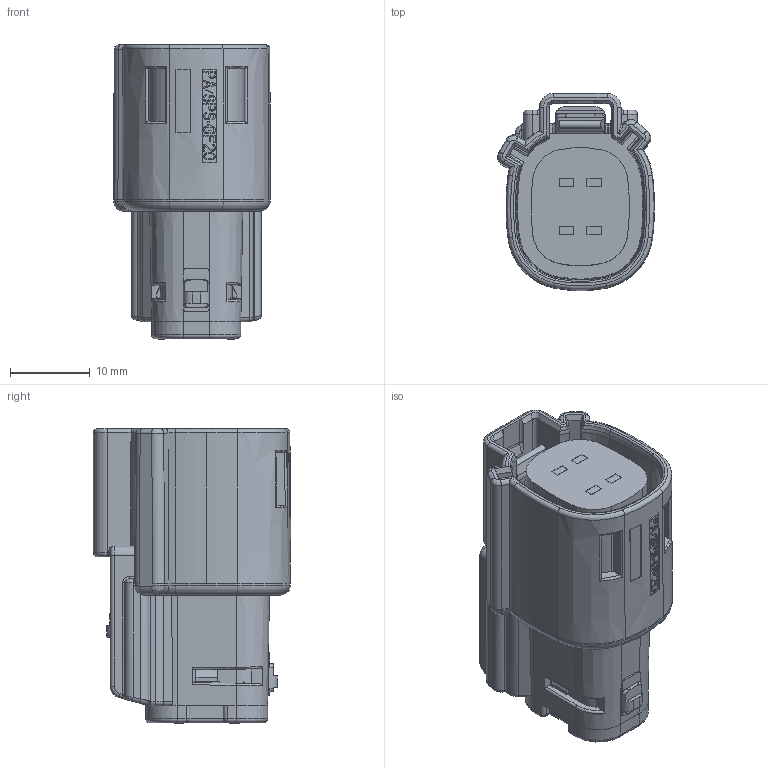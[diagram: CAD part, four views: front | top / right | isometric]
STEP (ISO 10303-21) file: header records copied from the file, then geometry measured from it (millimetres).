
FILE_DESCRIPTION((''),'2;1');
FILE_NAME('334724002','2016-05-12T',('rlalsangi'),(''),'PRO/ENGINEER BY PARAMETRIC TECHNOLOGY CORPORATION, 2012310','PRO/ENGINEER BY PARAMETRIC TECHNOLOGY CORPORATION, 2012310','');
FILE_SCHEMA(('CONFIG_CONTROL_DESIGN'));
Length unit declared in the file: millimetre
Products named in the file (1): 334724002
Bounding box: 19.72 x 24.77 x 37 mm (x, y, z)
Volume: 8332.5 mm3; surface area: 7021.7 mm2
Topology: 1 solids, 1 shells, 1148 faces, 3147 edges, 2008 vertices
Faces by surface type: plane 717, cylinder 230, torus 92, cone 62, bspline 39, sphere 8
Entity records: 39728 total; most frequent: CARTESIAN_POINT 11958, ORIENTED_EDGE 6278, DIRECTION 5093, EDGE_CURVE 3139, VERTEX_POINT 2008, VECTOR 1715, LINE 1715, AXIS2_PLACEMENT_3D 1689
